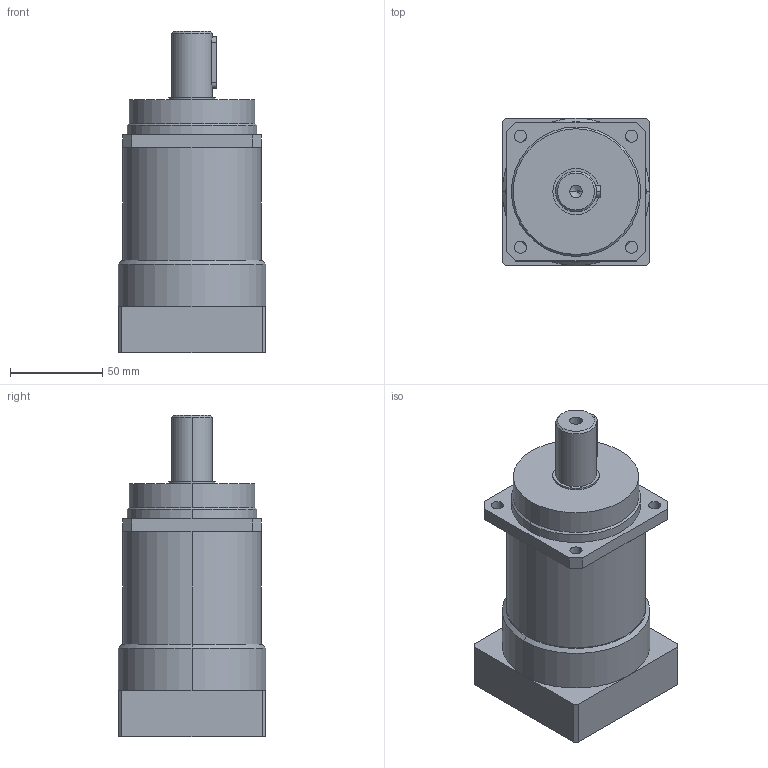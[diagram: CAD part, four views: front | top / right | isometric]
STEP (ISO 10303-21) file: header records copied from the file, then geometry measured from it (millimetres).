
FILE_DESCRIPTION (( 'STEP AP214' ), '1' );
FILE_NAME ('VRS075-L1.STEP', '2019-08-31T05:25:25', ( '微软用户' ), ( '微软中国' ), 'SwSTEP 2.0', 'SolidWorks 2014', '' );
FILE_SCHEMA (( 'AUTOMOTIVE_DESIGN' ));
Length unit declared in the file: millimetre
Products named in the file (2): VRS075-L1
Bounding box: 80 x 80 x 174 mm (x, y, z)
Volume: 621959.4 mm3; surface area: 58406.7 mm2
Topology: 1 solids, 1 shells, 713 faces, 2031 edges, 1340 vertices
Faces by surface type: plane 600, bspline 60, cylinder 37, cone 16
Entity records: 29998 total; most frequent: CARTESIAN_POINT 4924, ORIENTED_EDGE 4042, DIRECTION 3290, EDGE_CURVE 2021, VECTOR 1814, LINE 1814, VERTEX_POINT 1340, EDGE_LOOP 751
